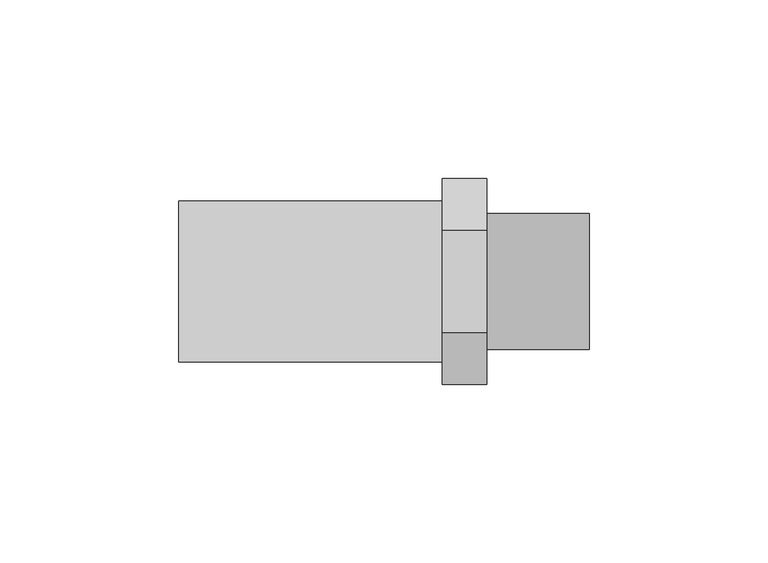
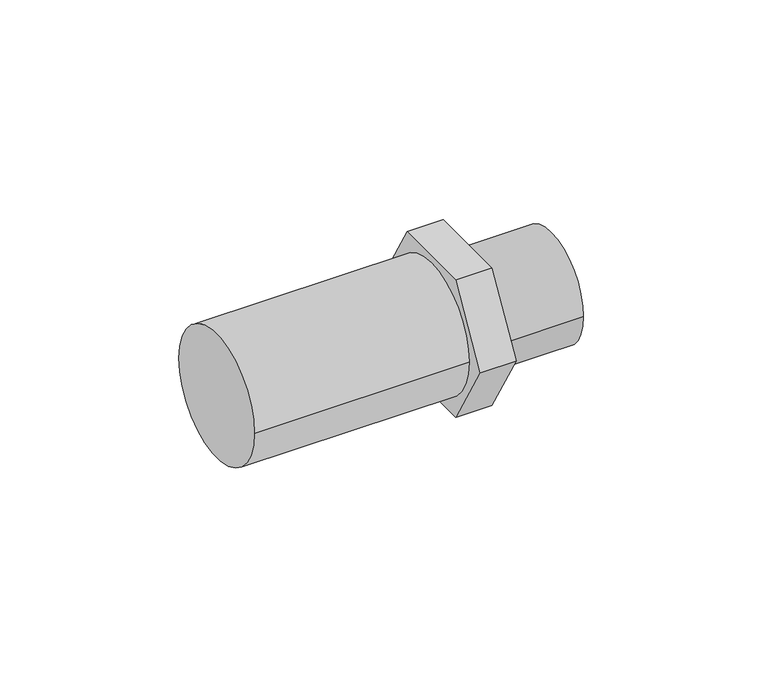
"""IFC4 building model written with IfcOpenShell, lengths in millimetres: pipe fitting geometry, 01011113 : Douilles."""

from ifc_helpers import new_model, si_unit, point, frame, origin, origin_2d, place, context, project, spatial, circle_curve, trimmed, segment, composite_curve, outline, extrude, source, transform, mapped, element, save
from ifc_brep_helpers import plane_surface, cylinder_surface, advanced_brep


def pipe_fitting_69020558(model_context):
    return source(origin(), model_context, "Body", "SolidModel", [
        extrude(outline(composite_curve([segment(trimmed(circle_curve(origin_2d(), 22.5), [point((22.5, 0.0))], [point((-22.5, 0.0))], False, "CARTESIAN"), True, "CONTINUOUS"), segment(trimmed(circle_curve(origin_2d(), 22.5), [point((-22.5, 0.0))], [point((22.5, 0.0))], False, "CARTESIAN"), True, "CONTINUOUS")], self_intersect=False)), frame((-57.5, 0.0, 0.0), z_axis=(1.0, 0.0, 0.0), x_axis=(0.0, 1.0, 0.0)), (0.0, 0.0, 1.0), 73.75),
        advanced_brep(
        [(28.75, -14.4337567, 25.0), (28.75, -28.8675135, 0.0), (28.75, -14.4337567, -25.0), (28.75, 14.4337567, -25.0), (28.75, 28.8675135, 0.0), (28.75, 14.4337567, 25.0), (28.75, -19.05, 0.0), (28.75, 19.05, 0.0), (16.25, -14.4337567, 25.0), (16.25, 14.4337567, 25.0), (16.25, 28.8675135, 0.0), (16.25, 14.4337567, -25.0), (16.25, -14.4337567, -25.0), (16.25, -28.8675135, 0.0), (57.5, -19.05, 0.0), (57.5, 19.05, 0.0)],
        [
            (0, 1),
            (1, 2),
            (2, 3),
            (3, 4),
            (4, 5),
            (5, 0),
            (6, 7, circle_curve(frame((28.75, 0.0, 0.0), z_axis=(-1.0, 0.0, 0.0), x_axis=(0.0, 1.0, 0.0)), 19.05)),
            (7, 6, circle_curve(frame((28.75, 0.0, 0.0), z_axis=(-1.0, 0.0, 0.0), x_axis=(0.0, 1.0, 0.0)), 19.05)),
            (8, 9),
            (9, 10),
            (10, 11),
            (11, 12),
            (12, 13),
            (13, 8),
            (0, 8),
            (13, 1),
            (12, 2),
            (11, 3),
            (10, 4),
            (9, 5),
            (14, 15, circle_curve(frame((57.5, 0.0, 0.0), z_axis=(1.0, 0.0, 0.0), x_axis=(0.0, 1.0, 0.0)), 19.05)),
            (15, 14, circle_curve(frame((57.5, 0.0, 0.0), z_axis=(1.0, 0.0, 0.0), x_axis=(0.0, 1.0, 0.0)), 19.05)),
            (15, 7),
            (6, 14),
        ],
        [
            plane_surface(frame((28.75, -14.4337567, 25.0), z_axis=(1.0000000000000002, 0.0, 0.0), x_axis=(0.0, -0.5000000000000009, -0.8660254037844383))),
            plane_surface(frame((16.25, -14.4337567, 25.0), z_axis=(-1.0000000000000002, 0.0, 0.0), x_axis=(0.0, 0.5000000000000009, 0.8660254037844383))),
            plane_surface(frame((28.75, -14.4337567, 25.0), z_axis=(0.0, -0.8660254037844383, 0.5000000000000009), x_axis=(-1.0, 0.0, 0.0))),
            plane_surface(frame((28.75, -28.8675135, 0.0), z_axis=(0.0, -0.866025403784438, -0.500000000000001), x_axis=(-1.0, 0.0, 0.0))),
            plane_surface(frame((28.75, -14.4337567, -25.0), z_axis=(0.0, 0.0, -1.0), x_axis=(-1.0, 0.0, 0.0))),
            plane_surface(frame((28.75, 14.4337567, -25.0), z_axis=(0.0, 0.8660254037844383, -0.5000000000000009), x_axis=(-1.0, 0.0, 0.0))),
            plane_surface(frame((28.75, 28.8675135, 0.0), z_axis=(0.0, 0.866025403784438, 0.500000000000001), x_axis=(-1.0, 0.0, 0.0))),
            plane_surface(frame((28.75, 14.4337567, 25.0), z_axis=(0.0, 0.0, 1.0), x_axis=(-1.0, 0.0, 0.0))),
            plane_surface(frame((57.5, 0.0, 0.0), z_axis=(1.0, 0.0, 0.0), x_axis=(0.0, 0.0, 1.0))),
            cylinder_surface(frame((28.75, 0.0, 0.0), z_axis=(-1.0, 0.0, 0.0), x_axis=(0.0, 1.0, 0.0)), 19.05),
        ],
        [
            (0, [[1, 2, 3, 4, 5, 6], [7, 8]]),
            (1, [[9, 10, 11, 12, 13, 14]]),
            (2, [[-1, 15, -14, 16]]),
            (3, [[-2, -16, -13, 17]]),
            (4, [[-3, -17, -12, 18]]),
            (5, [[-4, -18, -11, 19]]),
            (6, [[-5, -19, -10, 20]]),
            (7, [[-6, -20, -9, -15]]),
            (8, [[21, 22]]),
            (9, [[-22, 23, -7, 24]]),
            (9, [[-21, -24, -8, -23]]),
        ],
    ),
    ])


if __name__ == "__main__":
    model = new_model("IFC4")
    model_context = context("Model", 3, world=origin())
    ifc_project = project(units=[si_unit("LENGTHUNIT", "METRE", prefix="MILLI")], contexts=[model_context])
    site = spatial("IfcSite", under=ifc_project)
    building = spatial("IfcBuilding", under=site)
    placement = place(None, origin())
    pipe_fitting_shape = pipe_fitting_69020558(model_context)
    element("IfcPipeFitting", 1, ObjectType="01011113 : Douilles", at=placement, inside=building, context=model_context, shape_type="MappedRepresentation", body=[
        mapped(pipe_fitting_shape, transform((0.0, 0.0, 0.0), x_axis=(1.0, 0.0, 0.0), y_axis=(0.0, 1.0, 0.0), z_axis=(0.0, 0.0, 1.0))),
    ])
    save(model, "model.ifc")
